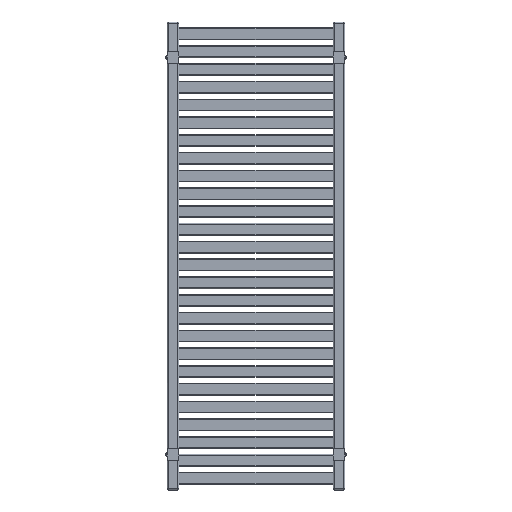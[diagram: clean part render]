
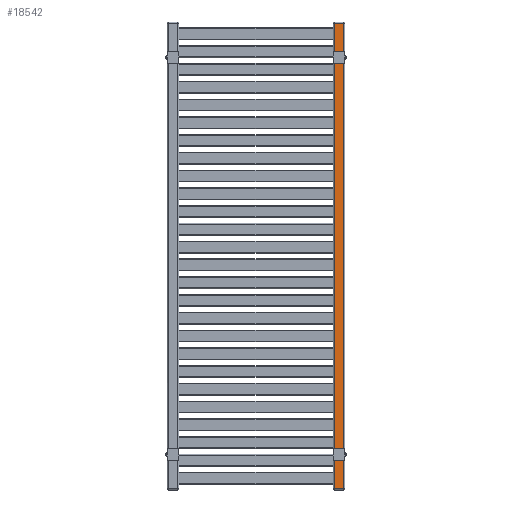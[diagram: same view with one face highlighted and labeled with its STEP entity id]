
A CAD part, front view. The second image highlights one B-rep face of the part: STEP entity #18542.
In plain terms, the highlighted planar face has unit normal (0, -1, 0).
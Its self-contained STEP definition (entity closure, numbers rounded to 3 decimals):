
#18370=CARTESIAN_POINT('',(222.0,-15.,1182.0));
#18371=VERTEX_POINT('',#18370);
#18387=CARTESIAN_POINT('',(198.0,-15.,1182.0));
#18388=VERTEX_POINT('',#18387);
#18396=CARTESIAN_POINT('',(198.0,-15.,1182.0));
#18397=DIRECTION('',(1.0,0.0,0.0));
#18398=VECTOR('',#18397,24.);
#18399=LINE('',#18396,#18398);
#18400=EDGE_CURVE('',#18388,#18371,#18399,.T.);
#18500=CARTESIAN_POINT('',(222.0,-15.,3.0));
#18501=VERTEX_POINT('',#18500);
#18502=CARTESIAN_POINT('',(222.0,-15.,3.0));
#18503=DIRECTION('',(0.0,0.0,1.0));
#18504=VECTOR('',#18503,1179.0);
#18505=LINE('',#18502,#18504);
#18506=EDGE_CURVE('',#18501,#18371,#18505,.T.);
#18519=CARTESIAN_POINT('',(222.0,-15.,0.0));
#18520=DIRECTION('',(0.0,-1.0,0.0));
#18521=DIRECTION('',(0.0,0.0,-1.0));
#18522=AXIS2_PLACEMENT_3D('',#18519,#18520,#18521);
#18523=PLANE('',#18522);
#18524=ORIENTED_EDGE('',*,*,#18400,.F.);
#18525=CARTESIAN_POINT('',(198.0,-15.,3.0));
#18526=VERTEX_POINT('',#18525);
#18527=CARTESIAN_POINT('',(198.0,-15.,3.0));
#18528=DIRECTION('',(0.0,0.0,1.0));
#18529=VECTOR('',#18528,1179.0);
#18530=LINE('',#18527,#18529);
#18531=EDGE_CURVE('',#18526,#18388,#18530,.T.);
#18532=ORIENTED_EDGE('',*,*,#18531,.F.);
#18533=CARTESIAN_POINT('',(222.0,-15.,3.0));
#18534=DIRECTION('',(-1.0,0.0,0.0));
#18535=VECTOR('',#18534,24.0);
#18536=LINE('',#18533,#18535);
#18537=EDGE_CURVE('',#18501,#18526,#18536,.T.);
#18538=ORIENTED_EDGE('',*,*,#18537,.F.);
#18539=ORIENTED_EDGE('',*,*,#18506,.T.);
#18540=EDGE_LOOP('',(#18524,#18532,#18538,#18539));
#18541=FACE_OUTER_BOUND('',#18540,.T.);
#18542=ADVANCED_FACE('',(#18541),#18523,.T.);
